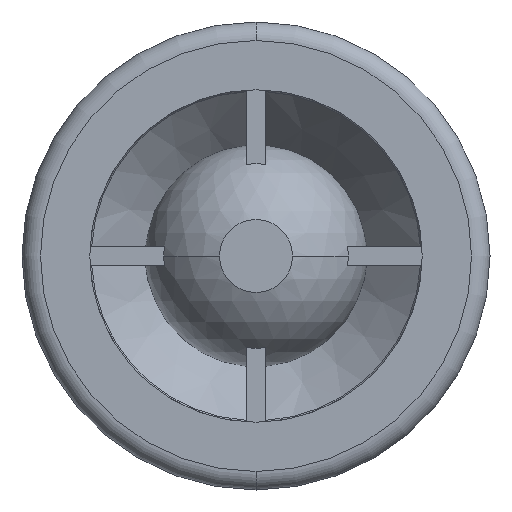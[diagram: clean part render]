
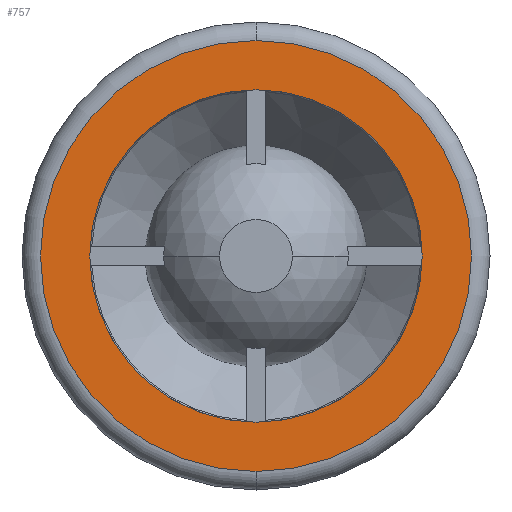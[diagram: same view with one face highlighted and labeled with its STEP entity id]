
A CAD part, front view. The second image highlights one B-rep face of the part: STEP entity #757.
In plain terms, the highlighted planar face has unit normal (0, -1, 0).
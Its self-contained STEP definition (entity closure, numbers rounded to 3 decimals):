
#635 = EDGE_CURVE ( 'NONE', #2758, #2759, #1877, .T. ) ;
#706 = ORIENTED_EDGE ( 'NONE', *, *, #2766, .F. ) ;
#719 = ORIENTED_EDGE ( 'NONE', *, *, #635, .F. ) ;
#730 = EDGE_LOOP ( 'NONE', ( #719, #706 ) ) ;
#745 = ORIENTED_EDGE ( 'NONE', *, *, #2801, .T. ) ;
#751 = ORIENTED_EDGE ( 'NONE', *, *, #752, .T. ) ;
#752 = EDGE_CURVE ( 'NONE', #2804, #2780, #2100, .T. ) ;
#753 = EDGE_LOOP ( 'NONE', ( #751, #745 ) ) ;
#757 = ADVANCED_FACE ( 'NONE', ( #2095, #2094 ), #2093, .F. ) ;
#1873 = DIRECTION ( 'NONE',  ( 0., 0., -1. ) ) ;
#1874 = DIRECTION ( 'NONE',  ( 0., -1., 0. ) ) ;
#1875 = CARTESIAN_POINT ( 'NONE',  ( 0., 0., 0. ) ) ;
#1876 = AXIS2_PLACEMENT_3D ( 'NONE', #1875, #1874, #1873 ) ;
#1877 = CIRCLE ( 'NONE', #1876, 13.5 ) ;
#2088 = DIRECTION ( 'NONE',  ( 0., 0., 1. ) ) ;
#2089 = DIRECTION ( 'NONE',  ( 0., 1., 0. ) ) ;
#2090 = CARTESIAN_POINT ( 'NONE',  ( -13.5, 0., 0. ) ) ;
#2092 = AXIS2_PLACEMENT_3D ( 'NONE', #2090, #2089, #2088 ) ;
#2093 = PLANE ( 'NONE',  #2092 ) ;
#2094 = FACE_BOUND ( 'NONE', #730, .T. ) ;
#2095 = FACE_OUTER_BOUND ( 'NONE', #753, .T. ) ;
#2096 = DIRECTION ( 'NONE',  ( 0., 0., 1. ) ) ;
#2097 = DIRECTION ( 'NONE',  ( 0., -1., 0. ) ) ;
#2098 = CARTESIAN_POINT ( 'NONE',  ( 0., 0., 0. ) ) ;
#2099 = AXIS2_PLACEMENT_3D ( 'NONE', #2098, #2097, #2096 ) ;
#2100 = CIRCLE ( 'NONE', #2099, 17.5 ) ;
#2256 = CARTESIAN_POINT ( 'NONE',  ( 0., 0., -13.5 ) ) ;
#2292 = DIRECTION ( 'NONE',  ( 0., 0., -1. ) ) ;
#2293 = DIRECTION ( 'NONE',  ( 0., -1., 0. ) ) ;
#2294 = CARTESIAN_POINT ( 'NONE',  ( 0., 0., 0. ) ) ;
#2295 = AXIS2_PLACEMENT_3D ( 'NONE', #2294, #2293, #2292 ) ;
#2296 = CIRCLE ( 'NONE', #2295, 13.5 ) ;
#2314 = CARTESIAN_POINT ( 'NONE',  ( 0., 0., 13.5 ) ) ;
#2335 = CARTESIAN_POINT ( 'NONE',  ( 0., 0., -17.5 ) ) ;
#2364 = CARTESIAN_POINT ( 'NONE',  ( 0., 0., 17.5 ) ) ;
#2365 = DIRECTION ( 'NONE',  ( 0., 0., 1. ) ) ;
#2366 = DIRECTION ( 'NONE',  ( 0., -1., 0. ) ) ;
#2367 = CARTESIAN_POINT ( 'NONE',  ( 0., 0., 0. ) ) ;
#2368 = AXIS2_PLACEMENT_3D ( 'NONE', #2367, #2366, #2365 ) ;
#2369 = CIRCLE ( 'NONE', #2368, 17.5 ) ;
#2758 = VERTEX_POINT ( 'NONE', #2256 ) ;
#2759 = VERTEX_POINT ( 'NONE', #2314 ) ;
#2766 = EDGE_CURVE ( 'NONE', #2759, #2758, #2296, .T. ) ;
#2780 = VERTEX_POINT ( 'NONE', #2335 ) ;
#2801 = EDGE_CURVE ( 'NONE', #2780, #2804, #2369, .T. ) ;
#2804 = VERTEX_POINT ( 'NONE', #2364 ) ;
